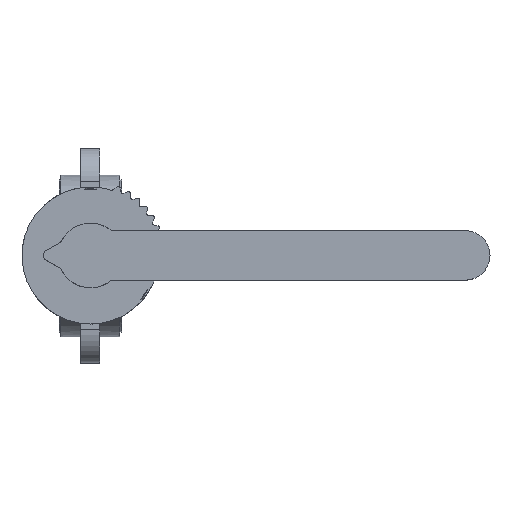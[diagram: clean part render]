
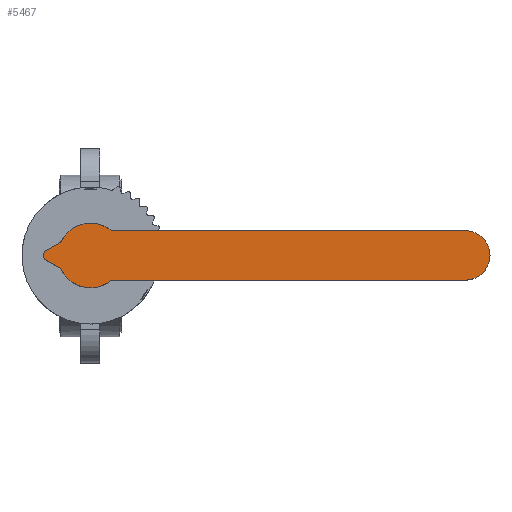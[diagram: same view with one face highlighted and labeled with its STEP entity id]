
A CAD part, top view. The second image highlights one B-rep face of the part: STEP entity #5467.
In plain terms, the highlighted planar face has unit normal (0, 0, 1).
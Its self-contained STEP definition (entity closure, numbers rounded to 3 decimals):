
#5467=ADVANCED_FACE('',(#10705),#10707,.T.);
#10705=FACE_BOUND('',#10706,.T.);
#10706=EDGE_LOOP('',(#14897,#14898,#14899,#14900,#14901,#14902,#14903,#14904,#14905,
#14906,#14907));
#10707=PLANE('',#10708);
#10708=AXIS2_PLACEMENT_3D('',#10709,#10710,#10711);
#10709=CARTESIAN_POINT('',(-1.545,-4.755,174.));
#10710=DIRECTION('',(0.,0.,1.));
#10711=DIRECTION('',(0.951,-0.309,0.));
#14897=ORIENTED_EDGE('',*,*,#17228,.T.);
#14898=ORIENTED_EDGE('',*,*,#17245,.T.);
#14899=ORIENTED_EDGE('',*,*,#17243,.T.);
#14900=ORIENTED_EDGE('',*,*,#17246,.T.);
#14901=ORIENTED_EDGE('',*,*,#17247,.T.);
#14902=ORIENTED_EDGE('',*,*,#17248,.T.);
#14903=ORIENTED_EDGE('',*,*,#17249,.T.);
#14904=ORIENTED_EDGE('',*,*,#17250,.T.);
#14905=ORIENTED_EDGE('',*,*,#17251,.T.);
#14906=ORIENTED_EDGE('',*,*,#17252,.T.);
#14907=ORIENTED_EDGE('',*,*,#17253,.T.);
#17228=EDGE_CURVE('',#20401,#20429,#20431,.T.);
#17243=EDGE_CURVE('',#20461,#20459,#20462,.T.);
#17245=EDGE_CURVE('',#20429,#20461,#20464,.T.);
#17246=EDGE_CURVE('',#20459,#20465,#20466,.T.);
#17247=EDGE_CURVE('',#20465,#20467,#20468,.T.);
#17248=EDGE_CURVE('',#20467,#20469,#20470,.T.);
#17249=EDGE_CURVE('',#20469,#20471,#20472,.T.);
#17250=EDGE_CURVE('',#20471,#20473,#20474,.T.);
#17251=EDGE_CURVE('',#20473,#20475,#20476,.T.);
#17252=EDGE_CURVE('',#20475,#20477,#20478,.T.);
#17253=EDGE_CURVE('',#20477,#20401,#20479,.T.);
#20401=VERTEX_POINT('',#28852);
#20429=VERTEX_POINT('',#28908);
#20431=LINE('',#28912,#28913);
#20459=VERTEX_POINT('',#28968);
#20461=VERTEX_POINT('',#28972);
#20462=LINE('',#28973,#28974);
#20464=CIRCLE('',#28979,13.);
#20465=VERTEX_POINT('',#28983);
#20466=CIRCLE('',#28984,17.);
#20467=VERTEX_POINT('',#28988);
#20468=CIRCLE('',#28989,17.);
#20469=VERTEX_POINT('',#28993);
#20470=CIRCLE('',#28994,3.);
#20471=VERTEX_POINT('',#28998);
#20472=LINE('',#28999,#29000);
#20473=VERTEX_POINT('',#29002);
#20474=CIRCLE('',#29003,3.);
#20475=VERTEX_POINT('',#29007);
#20476=LINE('',#29008,#29009);
#20477=VERTEX_POINT('',#29011);
#20478=CIRCLE('',#29012,3.);
#20479=CIRCLE('',#29016,17.);
#28852=CARTESIAN_POINT('',(10.954,-13.,174.));
#28908=CARTESIAN_POINT('',(197.,-13.,174.));
#28912=CARTESIAN_POINT('',(10.954,-13.,174.));
#28913=VECTOR('',#28914,1.);
#28914=DIRECTION('',(1.,0.,0.));
#28968=CARTESIAN_POINT('',(10.954,13.,174.));
#28972=CARTESIAN_POINT('',(197.,13.,174.));
#28973=CARTESIAN_POINT('',(197.,13.,174.));
#28974=VECTOR('',#28975,1.);
#28975=DIRECTION('',(-1.,0.,0.));
#28979=AXIS2_PLACEMENT_3D('',#28980,#28981,#28982);
#28980=CARTESIAN_POINT('',(197.,0.,174.));
#28981=DIRECTION('',(0.,0.,1.));
#28982=DIRECTION('',(0.,-1.,0.));
#28983=CARTESIAN_POINT('',(2.659,16.791,174.));
#28984=AXIS2_PLACEMENT_3D('',#28985,#28986,#28987);
#28985=CARTESIAN_POINT('',(0.,0.,174.));
#28986=DIRECTION('',(0.,0.,1.));
#28987=DIRECTION('',(0.644,0.765,0.));
#28988=CARTESIAN_POINT('',(-15.113,7.785,174.));
#28989=AXIS2_PLACEMENT_3D('',#28990,#28991,#28992);
#28990=CARTESIAN_POINT('',(0.,0.,174.));
#28991=DIRECTION('',(0.,0.,1.));
#28992=DIRECTION('',(0.156,0.988,0.));
#28993=CARTESIAN_POINT('',(-16.317,6.539,174.));
#28994=AXIS2_PLACEMENT_3D('',#28995,#28996,#28997);
#28995=CARTESIAN_POINT('',(-17.78,9.159,174.));
#28996=DIRECTION('',(0.,0.,-1.));
#28997=DIRECTION('',(0.889,-0.458,0.));
#28998=CARTESIAN_POINT('',(-23.338,2.619,174.));
#28999=CARTESIAN_POINT('',(-16.317,6.539,174.));
#29000=VECTOR('',#29001,1.);
#29001=DIRECTION('',(-0.873,-0.487,0.));
#29002=CARTESIAN_POINT('',(-23.338,-2.619,174.));
#29003=AXIS2_PLACEMENT_3D('',#29004,#29005,#29006);
#29004=CARTESIAN_POINT('',(-21.876,0.,174.));
#29005=DIRECTION('',(0.,0.,1.));
#29006=DIRECTION('',(-0.487,0.873,0.));
#29007=CARTESIAN_POINT('',(-16.317,-6.539,174.));
#29008=CARTESIAN_POINT('',(-23.338,-2.619,174.));
#29009=VECTOR('',#29010,1.);
#29010=DIRECTION('',(0.873,-0.487,0.));
#29011=CARTESIAN_POINT('',(-15.113,-7.785,174.));
#29012=AXIS2_PLACEMENT_3D('',#29013,#29014,#29015);
#29013=CARTESIAN_POINT('',(-17.78,-9.159,174.));
#29014=DIRECTION('',(0.,0.,-1.));
#29015=DIRECTION('',(0.487,0.873,0.));
#29016=AXIS2_PLACEMENT_3D('',#29017,#29018,#29019);
#29017=CARTESIAN_POINT('',(0.,0.,174.));
#29018=DIRECTION('',(0.,0.,1.));
#29019=DIRECTION('',(-0.889,-0.458,0.));
